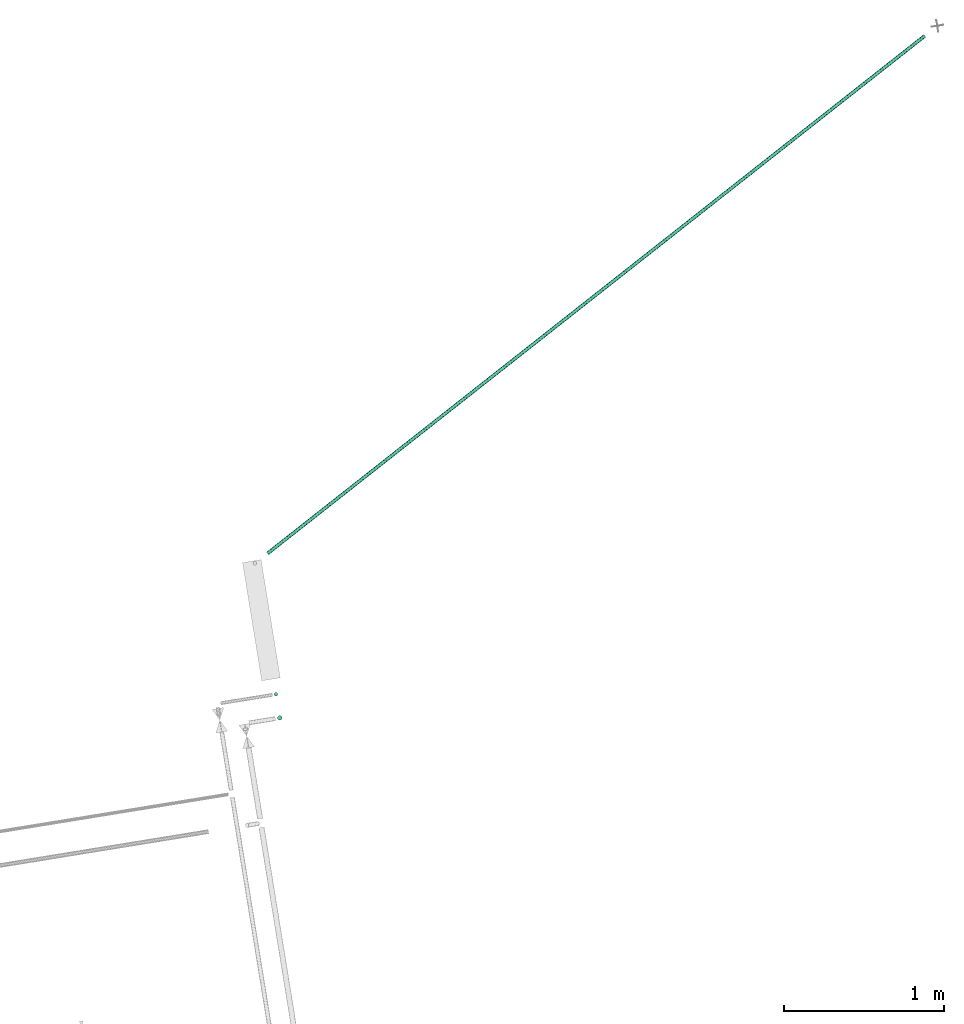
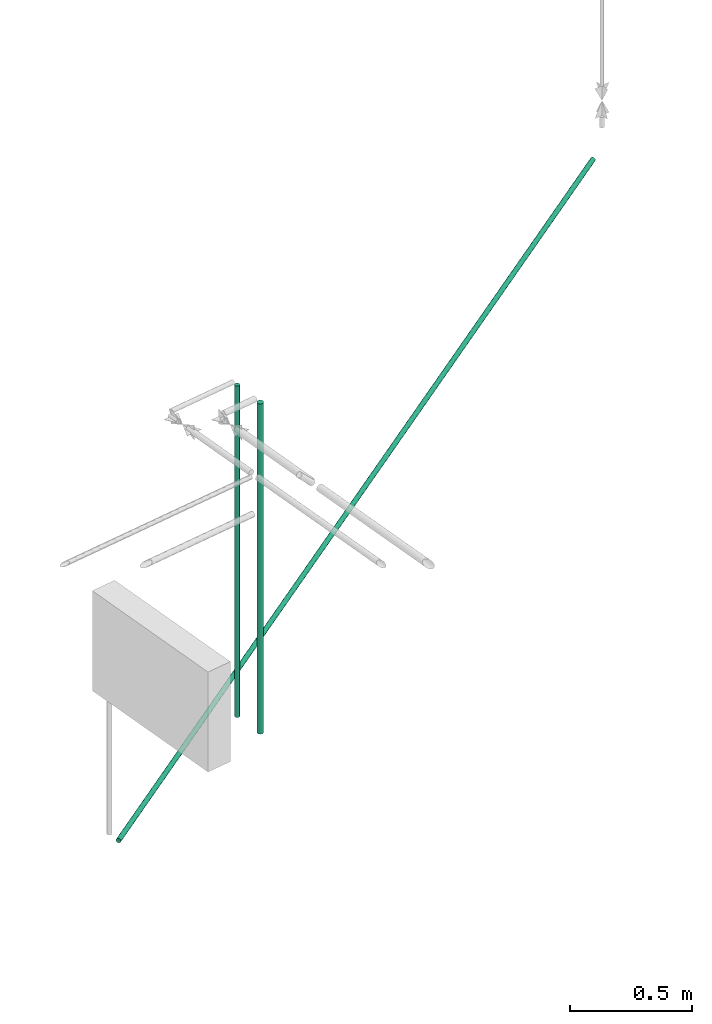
# One storey, part 2 of 11: 3 flow segments.
"""IFC2X3 building model written with IfcOpenShell, lengths in millimetres."""

from ifc_helpers import new_model, entity, si_unit, converted_unit, derived_unit, direction, frame, origin, origin_with_axes, origin_2d_with_axis, place, context, subcontext, project, spatial, circle, extrude, type_object, element, save


model = new_model("IFC2X3")

# Units and contexts
plan_context = context("Plan", 3, precision=1e-05, world=origin_with_axes())
model_context = context("Model", 3, precision=0.01, world=origin(), true_north=direction((6.12323399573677e-17, 1.0)))
body_context = subcontext(model_context, "Body", "Model", "MODEL_VIEW")
ifc_project = project(units=[converted_unit("PLANEANGLEUNIT", "DEGREE", entity("IfcPositiveLengthMeasure", 0.0174532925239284), si_unit("PLANEANGLEUNIT", "RADIAN"), dimensions=[0, 0, 0, 0, 0, 0, 0]), si_unit("AREAUNIT", "SQUARE_METRE"), si_unit("LENGTHUNIT", "METRE", prefix="MILLI"), si_unit("MASSUNIT", "GRAM", prefix="KILO"), si_unit("POWERUNIT", "WATT"), si_unit("PRESSUREUNIT", "PASCAL", prefix="KILO"), si_unit("FORCEUNIT", "NEWTON", prefix="KILO"), si_unit("ELECTRICVOLTAGEUNIT", "VOLT"), si_unit("ELECTRICCURRENTUNIT", "AMPERE"), si_unit("THERMODYNAMICTEMPERATUREUNIT", "DEGREE_CELSIUS"), si_unit("TIMEUNIT", "SECOND"), si_unit("VOLUMEUNIT", "CUBIC_METRE"), derived_unit("LINEARVELOCITYUNIT", [(si_unit("LENGTHUNIT", "METRE"), 1), (si_unit("TIMEUNIT", "SECOND"), -1)]), derived_unit("VOLUMETRICFLOWRATEUNIT", [(si_unit("VOLUMEUNIT", "CUBIC_METRE"), 1), (si_unit("TIMEUNIT", "SECOND"), -1)]), derived_unit("THERMALTRANSMITTANCEUNIT", [(si_unit("POWERUNIT", "WATT"), 1), (si_unit("THERMODYNAMICTEMPERATUREUNIT", "KELVIN"), -1), (si_unit("AREAUNIT", "SQUARE_METRE"), -1)]), derived_unit("SOUNDPRESSUREUNIT", [(si_unit("PRESSUREUNIT", "PASCAL"), 1)])], contexts=[model_context, plan_context])

# Site, building, storey
site_placement = place(None, frame((-0.000710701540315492, 0.00438415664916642, 0.0), z_axis=(0.0, 0.0, 1.0), x_axis=(-0.160236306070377, 0.987078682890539, 0.0)))
site = spatial("IfcSite", under=ifc_project, at=site_placement, Name="Default", CompositionType="ELEMENT")
building_placement = place(site_placement, origin_with_axes())
building = spatial("IfcBuilding", under=site, at=building_placement, CompositionType="ELEMENT")
storey_placement = place(building_placement, frame((0.0, 0.0, 58999.9999999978), z_axis=(0.0, 0.0, 1.0), x_axis=(1.0, 0.0, 0.0)))
storey = spatial("IfcBuildingStorey", under=building, at=storey_placement, Name="Nivå F", CompositionType="ELEMENT", Elevation=58999.9999999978)

# Flow segments
pipe_segment_type_1 = type_object("IfcPipeSegmentType", Name="Pipe Types:Kobberrør", PredefinedType="NOTDEFINED")
flow_segment_1_placement = place(storey_placement, origin_with_axes())
element("IfcFlowSegment", 1, at=flow_segment_1_placement, inside=storey, type_object=pipe_segment_type_1, Name="Pipe Types:Kobberrør", ObjectType="Pipe Types:Kobberrør", context=body_context, shape_type="SweptSolid", body=[
    extrude(circle(Radius=14.0, at=origin_2d_with_axis()), frame((778990.080004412, -503613.480498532, 1000.0), z_axis=(0.0, 0.0, 1.0), x_axis=(-1.0, 0.0, 0.0)), (0.0, 0.0, 1.0), 1652.00000000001),
])
flow_segment_2_placement = place(storey_placement, origin_with_axes())
element("IfcFlowSegment", 2, at=flow_segment_2_placement, inside=storey, type_object=pipe_segment_type_1, Name="Pipe Types:Kobberrør", ObjectType="Pipe Types:Kobberrør", context=body_context, shape_type="SweptSolid", body=[
    extrude(circle(Radius=11.0, at=origin_2d_with_axis()), frame((779140.080004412, -503613.480498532, 1000.0), z_axis=(0.0, 0.0, 1.0), x_axis=(-1.0, 0.0, 0.0)), (0.0, 0.0, 1.0), 1658.0),
])
pipe_segment_type_2 = type_object("IfcPipeSegmentType", Name="Pipe Types:PEX rør", PredefinedType="NOTDEFINED")
flow_segment_3_placement = place(storey_placement, origin_with_axes())
element("IfcFlowSegment", 3, at=flow_segment_3_placement, inside=storey, type_object=pipe_segment_type_2, Name="Pipe Types:PEX rør", ObjectType="Pipe Types:PEX rør", context=body_context, shape_type="SweptSolid", body=[
    extrude(circle(Radius=11.0, at=origin_2d_with_axis()), frame((782559.274705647, -508285.800868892, -139.294687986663), z_axis=(-0.484809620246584, 0.874619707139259, 0.0), x_axis=(0.874619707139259, 0.484809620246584, 0.0)), (0.0, 0.0, 1.0), 5240.00000000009),
])

save(model, "model.ifc")
